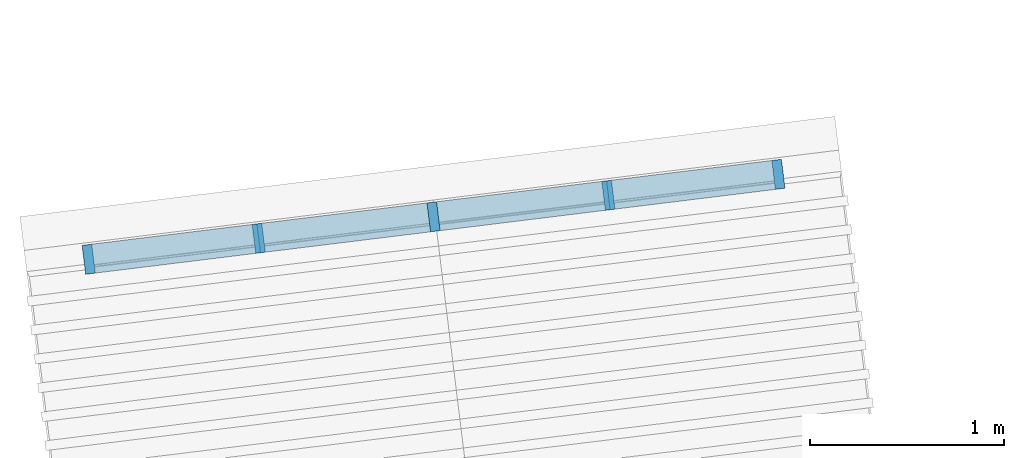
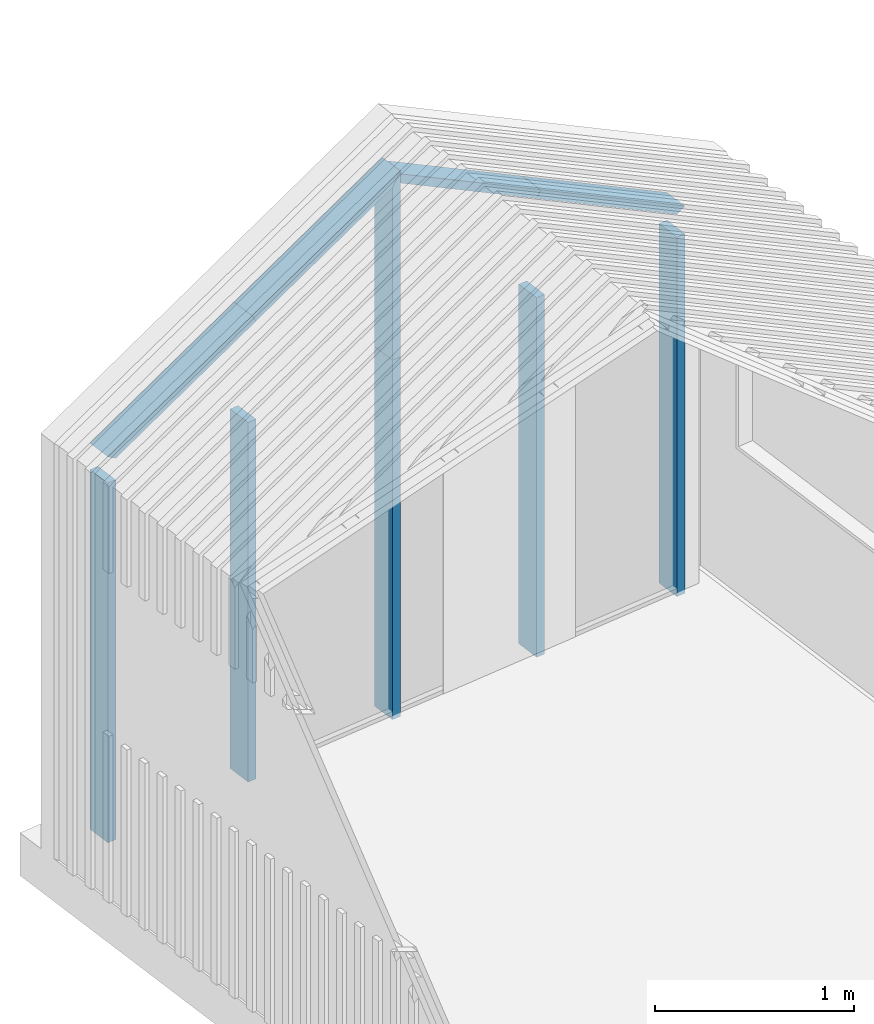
# One storey, part 3 of 75: 10 members, 1 element without a shape of its own.
"""IFC2X3 building model written with IfcOpenShell, lengths in metres."""

import ifcopenshell
import ifcopenshell.guid

model = None  # the IFC model being written
_history = None  # IfcOwnerHistory: only IFC2X3 demands one
_inside = {}  # id of a spatial element -> (the spatial element, [elements in it])
_under = {}  # id of a project, library or spatial element -> (it, [spatial elements below it])
_declared = {}  # id of a project -> (the project, [libraries it declares])
_typed = {}  # id of a type object -> (the type object, [elements of that type])
_made_of = {}  # id of a material, layer set ... -> (it, [elements and type objects made of it])


def new_model(schema):
    """Start an empty IFC model of exactly this schema.

    Asked for "IFC4X3", IfcOpenShell would pick the latest addendum, in which some entities
    have other attributes; the version numbers below select the first issue.
    IFC2X3 requires an IfcOwnerHistory on every rooted entity: one is made here for all.
    """
    global model, _history
    if schema == "IFC4X3":
        model = ifcopenshell.file(schema_version=(4, 3, 0, 0))
    else:
        model = ifcopenshell.file(schema=schema)
    _inside.clear()
    _under.clear()
    _declared.clear()
    _typed.clear()
    _made_of.clear()
    _history = None
    if model.schema == "IFC2X3":
        org = make("IfcOrganization", Name="unknown")
        user = make(
            "IfcPersonAndOrganization",
            ThePerson=make("IfcPerson", FamilyName="unknown"),
            TheOrganization=org,
        )
        app = make(
            "IfcApplication",
            ApplicationDeveloper=org,
            Version="unknown",
            ApplicationFullName="unknown",
            ApplicationIdentifier="unknown",
        )
        _history = make(
            "IfcOwnerHistory",
            OwningUser=user,
            OwningApplication=app,
            ChangeAction="ADDED",
            CreationDate=0,
        )
    return model


def make(cls, **values):
    """One entity of the class cls with the attributes given. An attribute that is None is left unset."""
    return model.create_entity(
        cls, **{name: value for name, value in values.items() if value is not None}
    )


def entity(cls, *values):
    """Any entity or typed value of the class cls, its attributes in the order of the schema. None: left unset."""
    e = model.create_entity(cls)
    for i, value in enumerate(values):
        if value is not None:
            e[i] = value
    return e


def rooted(cls, **values):
    """An entity with a GlobalId (a new one), such as an element, a storey or a relation."""
    return make(cls, GlobalId=ifcopenshell.guid.new(), OwnerHistory=_history, **values)


def si_unit(unit_type, name, prefix=None):
    """IfcSIUnit, for example si_unit("LENGTHUNIT", "METRE", prefix="MILLI")."""
    return make("IfcSIUnit", UnitType=unit_type, Prefix=prefix, Name=name)


def converted_unit(unit_type, name, factor, base, dimensions=None, offset=None):
    """IfcConversionBasedUnit, such as the inch: factor (a typed value) times the base unit."""
    return make(
        "IfcConversionBasedUnit"
        if offset is None
        else "IfcConversionBasedUnitWithOffset",
        ConversionOffset=offset,
        Dimensions=None
        if dimensions is None
        else entity("IfcDimensionalExponents", *dimensions),
        UnitType=unit_type,
        Name=name,
        ConversionFactor=make(
            "IfcMeasureWithUnit", ValueComponent=factor, UnitComponent=base
        ),
    )


def derived_unit(unit_type, elements):
    """IfcDerivedUnit: a product of units, each with its exponent."""
    return make(
        "IfcDerivedUnit",
        Elements=[
            make("IfcDerivedUnitElement", Unit=unit, Exponent=power)
            for unit, power in elements
        ],
        UnitType=unit_type,
    )


def assignment(units):
    """IfcUnitAssignment: the units of a project."""
    return None if units is None else make("IfcUnitAssignment", Units=units)


def point(xyz):
    """IfcCartesianPoint."""
    return None if xyz is None else make("IfcCartesianPoint", Coordinates=xyz)


def direction(xyz):
    """IfcDirection."""
    return None if xyz is None else make("IfcDirection", DirectionRatios=xyz)


def frame(location, z_axis=None, x_axis=None):
    """IfcAxis2Placement3D, a coordinate frame: its origin and axes. An axis left out is left unset."""
    return make(
        "IfcAxis2Placement3D",
        Location=point(location),
        Axis=direction(z_axis),
        RefDirection=direction(x_axis),
    )


def frame_2d(location, x_axis=None):
    """IfcAxis2Placement2D, a coordinate frame in the plane: its origin and x axis."""
    return make(
        "IfcAxis2Placement2D", Location=point(location), RefDirection=direction(x_axis)
    )


def origin():
    """The frame at (0, 0, 0) with its axes left unset."""
    return frame((0.0, 0.0, 0.0))


def origin_2d_with_axis():
    """The frame at (0, 0) in the plane with the x axis (1, 0) written out."""
    return frame_2d((0.0, 0.0), x_axis=(1.0, 0.0))


def place(relative_to, where):
    """IfcLocalPlacement: puts the frame where relative to a parent placement (None: the world)."""
    return make(
        "IfcLocalPlacement", PlacementRelTo=relative_to, RelativePlacement=where
    )


def context(
    kind, dimensions, precision=None, world=None, true_north=None, identifier=None
):
    """IfcGeometricRepresentationContext, for example the 3D "Model" context."""
    return make(
        "IfcGeometricRepresentationContext",
        ContextIdentifier=identifier,
        ContextType=kind,
        CoordinateSpaceDimension=dimensions,
        Precision=precision,
        WorldCoordinateSystem=world,
        TrueNorth=true_north,
    )


def subcontext(parent, identifier, kind, view, scale=None):
    """IfcGeometricRepresentationSubContext, for example "Body" below "Model"."""
    return make(
        "IfcGeometricRepresentationSubContext",
        ContextIdentifier=identifier,
        ContextType=kind,
        ParentContext=parent,
        TargetScale=scale,
        TargetView=view,
    )


def project(units=None, contexts=None):
    """IfcProject with its units and contexts."""
    return rooted(
        "IfcProject",
        Name="project",
        RepresentationContexts=contexts,
        UnitsInContext=assignment(units),
    )


def spatial(cls, under=None, at=None, **own):
    """A site, building, storey or space (cls), placed at a placement, below another one or the project."""
    s = rooted(cls, ObjectPlacement=at, **own)
    if under is not None:
        _under.setdefault(under.id(), (under, []))[1].append(s)
    return s


def profile(cls, at=None, kind="AREA", **sizes):
    """A parametric profile (cls). Its sizes go by their IFC names, for example OverallWidth=200.0."""
    return make(cls, ProfileType=kind, Position=at, **sizes)


def rectangle(**sizes):
    """IfcRectangleProfileDef."""
    return profile("IfcRectangleProfileDef", **sizes)


def extrude(swept, where, along, depth):
    """IfcExtrudedAreaSolid: the profile swept, set in the frame where, extruded along a direction by depth."""
    return make(
        "IfcExtrudedAreaSolid",
        SweptArea=swept,
        Position=where,
        ExtrudedDirection=direction(along),
        Depth=depth,
    )


def clip(a, b, op="DIFFERENCE"):
    """IfcBooleanClippingResult: the solid a cut by the half space b."""
    return make(
        "IfcBooleanClippingResult", Operator=op, FirstOperand=a, SecondOperand=b
    )


def halfspace(plane, agree):
    """IfcHalfSpaceSolid: all space on one side of the plane z = 0 of the frame plane."""
    return make(
        "IfcHalfSpaceSolid",
        BaseSurface=make("IfcPlane", Position=plane),
        AgreementFlag=agree,
    )


def shape(context_of_items, identifier, shape_type, items):
    """IfcShapeRepresentation: the items that make up one representation, for example the "Body"."""
    return make(
        "IfcShapeRepresentation",
        ContextOfItems=context_of_items,
        RepresentationIdentifier=identifier,
        RepresentationType=shape_type,
        Items=items,
    )


def source(mapping_origin, context_of_items, identifier, shape_type, items):
    """IfcRepresentationMap: a shape defined once, which mapped items show again and again."""
    return make(
        "IfcRepresentationMap",
        MappingOrigin=mapping_origin,
        MappedRepresentation=shape(context_of_items, identifier, shape_type, items),
    )


def transform(
    local_origin,
    x_axis=None,
    y_axis=None,
    z_axis=None,
    scale=None,
    scale2=None,
    scale3=None,
    uniform=True,
):
    """IfcCartesianTransformationOperator3D, or its non-uniform kind. x_axis, y_axis, z_axis: its Axis1, 2, 3."""
    if uniform:
        return make(
            "IfcCartesianTransformationOperator3D",
            Axis1=direction(x_axis),
            Axis2=direction(y_axis),
            LocalOrigin=point(local_origin),
            Scale=scale,
            Axis3=direction(z_axis),
        )
    return make(
        "IfcCartesianTransformationOperator3DnonUniform",
        Axis1=direction(x_axis),
        Axis2=direction(y_axis),
        LocalOrigin=point(local_origin),
        Scale=scale,
        Axis3=direction(z_axis),
        Scale2=scale2,
        Scale3=scale3,
    )


def mapped(mapping_source, mapping_target):
    """IfcMappedItem: shows the shape of a source again, moved by a transform."""
    return make(
        "IfcMappedItem", MappingSource=mapping_source, MappingTarget=mapping_target
    )


def material(Name=None, Category=None):
    """IfcMaterial."""
    return make("IfcMaterial", Name=Name, Category=Category)


def made_of(thing, what):
    """Note that an element or type object is made of a material, layer set ...; save() writes the relation."""
    if what is not None:
        _made_of.setdefault(what.id(), (what, []))[1].append(thing)
    return thing


def type_object(cls, material=None, **own):
    """A type object (cls), such as IfcWallType, which elements share."""
    return made_of(rooted(cls, **own), material)


def type_shapes(of_type, sources):
    """Give a type object the sources (RepresentationMaps) that its elements show as mapped items."""
    of_type.RepresentationMaps = sources


def element(
    cls,
    number,
    at=None,
    inside=None,
    cuts=None,
    type_object=None,
    material=None,
    context=None,
    identifier="Body",
    shape_type=None,
    held_by="IfcProductDefinitionShape",
    body=None,
    shapes=None,
    **own,
):
    """One element of the class cls, such as IfcWall. Its Tag is "e" and its number.

    at: its placement. inside: the storey or other place that contains it. cuts: it is an
    opening in that element (IfcRelVoidsElement). A single representation is given by context,
    identifier, shape_type and body (its items); several are given by shapes. held_by: the class
    of the entity that holds the representations. save() writes the other relations.
    """
    e = rooted(cls, Tag="e%d" % number, ObjectPlacement=at, **own)
    if body is not None:
        shapes = [shape(context, identifier, shape_type, body)]
    if shapes is not None:
        e.Representation = make(held_by, Representations=shapes)
    if inside is not None:
        _inside.setdefault(inside.id(), (inside, []))[1].append(e)
    if cuts is not None:
        rooted(
            "IfcRelVoidsElement", RelatingBuildingElement=cuts, RelatedOpeningElement=e
        )
    if type_object is not None:
        _typed.setdefault(type_object.id(), (type_object, []))[1].append(e)
    return made_of(e, material)


def aggregate(whole, parts):
    """IfcRelAggregates: a whole, such as a stair, and the parts it consists of."""
    return rooted("IfcRelAggregates", RelatingObject=whole, RelatedObjects=parts)


def save(model, path):
    """Write the relations noted so far, then the file.

    IfcRelAggregates (storeys below a building ...), IfcRelContainedInSpatialStructure (elements
    in a storey), IfcRelDefinesByType, IfcRelAssociatesMaterial and IfcRelDeclares: one each for
    every whole, place, type object, material and project.
    """
    for whole, parts in _under.values():
        aggregate(whole, parts)
    for where, things in _inside.values():
        rooted(
            "IfcRelContainedInSpatialStructure",
            RelatedElements=things,
            RelatingStructure=where,
        )
    for kind, things in _typed.values():
        rooted("IfcRelDefinesByType", RelatedObjects=things, RelatingType=kind)
    for what, things in _made_of.values():
        rooted("IfcRelAssociatesMaterial", RelatedObjects=things, RelatingMaterial=what)
    for by, libraries in _declared.values():
        rooted("IfcRelDeclares", RelatingContext=by, RelatedDefinitions=libraries)
    model.write(path)


model = new_model("IFC2X3")

# Units and contexts
model_context = context("Model", 3, precision=1e-05, world=origin(), true_north=direction((6.123031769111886e-17, 1.0)))
body_context = subcontext(model_context, "Body", "Model", "MODEL_VIEW")
ifc_project = project(units=[si_unit("LENGTHUNIT", "METRE"), si_unit("AREAUNIT", "SQUARE_METRE"), si_unit("VOLUMEUNIT", "CUBIC_METRE"), converted_unit("PLANEANGLEUNIT", "DEGREE", entity("IfcRatioMeasure", 0.017453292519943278), si_unit("PLANEANGLEUNIT", "RADIAN"), dimensions=[0, 0, 0, 0, 0, 0, 0]), si_unit("MASSUNIT", "GRAM", prefix="KILO"), derived_unit("MASSDENSITYUNIT", [(si_unit("MASSUNIT", "GRAM", prefix="KILO"), 1), (si_unit("LENGTHUNIT", "METRE"), -3)]), derived_unit("IONCONCENTRATIONUNIT", [(si_unit("MASSUNIT", "GRAM", prefix="KILO"), 1), (si_unit("LENGTHUNIT", "METRE"), -3)]), derived_unit("MOMENTOFINERTIAUNIT", [(si_unit("LENGTHUNIT", "METRE"), 4)]), si_unit("TIMEUNIT", "SECOND"), si_unit("FREQUENCYUNIT", "HERTZ"), si_unit("THERMODYNAMICTEMPERATUREUNIT", "DEGREE_CELSIUS"), derived_unit("THERMALTRANSMITTANCEUNIT", [(si_unit("MASSUNIT", "GRAM", prefix="KILO"), 1), (si_unit("THERMODYNAMICTEMPERATUREUNIT", "KELVIN"), -1), (si_unit("TIMEUNIT", "SECOND"), -3)]), derived_unit("THERMALCONDUCTANCEUNIT", [(si_unit("MASSUNIT", "GRAM", prefix="KILO"), 1), (si_unit("THERMODYNAMICTEMPERATUREUNIT", "KELVIN"), -1), (si_unit("TIMEUNIT", "SECOND"), -3), (si_unit("LENGTHUNIT", "METRE"), 1)]), derived_unit("VOLUMETRICFLOWRATEUNIT", [(si_unit("LENGTHUNIT", "METRE"), 3), (si_unit("TIMEUNIT", "SECOND"), -1)]), derived_unit("MASSFLOWRATEUNIT", [(si_unit("MASSUNIT", "GRAM", prefix="KILO"), 1), (si_unit("TIMEUNIT", "SECOND"), -1)]), derived_unit("ROTATIONALFREQUENCYUNIT", [(si_unit("TIMEUNIT", "SECOND"), -1)]), si_unit("ELECTRICCURRENTUNIT", "AMPERE"), si_unit("ELECTRICVOLTAGEUNIT", "VOLT"), si_unit("POWERUNIT", "WATT"), si_unit("FORCEUNIT", "NEWTON", prefix="KILO"), si_unit("ILLUMINANCEUNIT", "LUX"), si_unit("LUMINOUSFLUXUNIT", "LUMEN"), si_unit("LUMINOUSINTENSITYUNIT", "CANDELA"), derived_unit("USERDEFINED", [(si_unit("MASSUNIT", "GRAM", prefix="KILO"), -1), (si_unit("LENGTHUNIT", "METRE"), -2), (si_unit("TIMEUNIT", "SECOND"), 3), (si_unit("LUMINOUSFLUXUNIT", "LUMEN"), 1)]), derived_unit("USERDEFINED", [(si_unit("MASSUNIT", "GRAM", prefix="KILO"), 1), (si_unit("TIMEUNIT", "SECOND"), -3), (si_unit("LENGTHUNIT", "METRE"), 3), (si_unit("ELECTRICCURRENTUNIT", "AMPERE"), -2)]), derived_unit("SOUNDPOWERUNIT", [(si_unit("MASSUNIT", "GRAM", prefix="KILO"), 1), (si_unit("TIMEUNIT", "SECOND"), -3), (si_unit("LENGTHUNIT", "METRE"), 2)]), derived_unit("SOUNDPRESSUREUNIT", [(si_unit("MASSUNIT", "GRAM", prefix="KILO"), 1), (si_unit("LENGTHUNIT", "METRE"), -1), (si_unit("TIMEUNIT", "SECOND"), -2)]), derived_unit("LINEARVELOCITYUNIT", [(si_unit("LENGTHUNIT", "METRE"), 1), (si_unit("TIMEUNIT", "SECOND"), -1)]), si_unit("PRESSUREUNIT", "PASCAL"), derived_unit("USERDEFINED", [(si_unit("MASSUNIT", "GRAM", prefix="KILO"), 1), (si_unit("LENGTHUNIT", "METRE"), -2), (si_unit("TIMEUNIT", "SECOND"), -2)]), derived_unit("LINEARFORCEUNIT", [(si_unit("MASSUNIT", "GRAM", prefix="KILO"), 1), (si_unit("TIMEUNIT", "SECOND"), -2)]), derived_unit("PLANARFORCEUNIT", [(si_unit("MASSUNIT", "GRAM", prefix="KILO"), 1), (si_unit("LENGTHUNIT", "METRE"), -1), (si_unit("TIMEUNIT", "SECOND"), -2)]), derived_unit("SPECIFICHEATCAPACITYUNIT", [(si_unit("THERMODYNAMICTEMPERATUREUNIT", "KELVIN"), -1), (si_unit("LENGTHUNIT", "METRE"), 2), (si_unit("TIMEUNIT", "SECOND"), -2)]), derived_unit("HEATINGVALUEUNIT", [(si_unit("LENGTHUNIT", "METRE"), 2), (si_unit("TIMEUNIT", "SECOND"), -2)]), derived_unit("VAPORPERMEABILITYUNIT", [(si_unit("LENGTHUNIT", "METRE"), -1), (si_unit("TIMEUNIT", "SECOND"), 1)]), derived_unit("DYNAMICVISCOSITYUNIT", [(si_unit("MASSUNIT", "GRAM", prefix="KILO"), 1), (si_unit("TIMEUNIT", "SECOND"), -1), (si_unit("LENGTHUNIT", "METRE"), -1)]), derived_unit("THERMALEXPANSIONCOEFFICIENTUNIT", [(si_unit("THERMODYNAMICTEMPERATUREUNIT", "KELVIN"), -1)]), derived_unit("MODULUSOFELASTICITYUNIT", [(si_unit("MASSUNIT", "GRAM", prefix="KILO"), 1), (si_unit("LENGTHUNIT", "METRE"), -1), (si_unit("TIMEUNIT", "SECOND"), -2)]), derived_unit("ISOTHERMALMOISTURECAPACITYUNIT", [(si_unit("LENGTHUNIT", "METRE"), 3), (si_unit("MASSUNIT", "GRAM", prefix="KILO"), -1)]), derived_unit("MOISTUREDIFFUSIVITYUNIT", [(si_unit("TIMEUNIT", "SECOND"), -1), (si_unit("LENGTHUNIT", "METRE"), 2)])], contexts=[model_context])

# Site, building, storey
site_placement = place(None, origin())
site = spatial("IfcSite", under=ifc_project, at=site_placement, Name="Default", CompositionType="ELEMENT")
building_placement = place(site_placement, origin())
building = spatial("IfcBuilding", under=site, at=building_placement, Name="Projeto", CompositionType="ELEMENT")
storey_placement = place(building_placement, origin())
storey = spatial("IfcBuildingStorey", under=building, at=storey_placement, Name="Nível 1", CompositionType="ELEMENT", Elevation=0.0)

# Curtain wall, members
curtain_wall_type = type_object("IfcCurtainWallType", Name="Parede cortina:Vitrine", PredefinedType="NOTDEFINED")
curtain_wall_placement = place(storey_placement, origin())
curtain_wall = element("IfcCurtainWall", 1, at=curtain_wall_placement, inside=storey, type_object=curtain_wall_type, Name="Parede cortina:Vitrine", ObjectType="Parede cortina:Vitrine")
ifc_material = material(Name="Alumín.")
member_type_1 = type_object("IfcMemberType", Name="Montante retangular:50 x 150mm", PredefinedType="MULLION", material=ifc_material)
shared_shape_1 = source(origin(), body_context, "Body", "SweptSolid", [
    clip(extrude(rectangle(XDim=0.14999999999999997, YDim=0.05, at=origin_2d_with_axis()), frame((0.0, 0.0, -1.1418157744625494), z_axis=(0.0, 0.0, 1.0), x_axis=(0.0, -1.0, 0.0)), (0.0, 0.0, 1.0), 1.1418157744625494), halfspace(frame((0.0, 0.0, -1.1002087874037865), z_axis=(0.8571673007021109, 0.0, -0.5150380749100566), x_axis=(0.5150380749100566, 0.0, 0.8571673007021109)), False)),
])
type_shapes(member_type_1, [shared_shape_1])
member_1_placement = place(curtain_wall_placement, frame((-152.4061438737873, 78.05799485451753, -0.39703155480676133), z_axis=(0.0, 0.0, -1.0), x_axis=(-0.9925113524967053, -0.12215242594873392, 0.0)))
member_1 = element("IfcMember", 2, at=member_1_placement, type_object=member_type_1, material=ifc_material, Name="Montante retangular:50 x 150mm", ObjectType="Montante retangular:50 x 150mm", context=body_context, shape_type="MappedRepresentation", body=[
    mapped(shared_shape_1, transform((0.0, 0.0, 0.0), scale=1.0)),
])
member_type_2 = type_object("IfcMemberType", Name="Montante retangular:50 x 150mm", PredefinedType="MULLION", material=ifc_material)
shared_shape_2 = source(origin(), body_context, "Body", "SweptSolid", [
    clip(extrude(rectangle(XDim=0.14999999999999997, YDim=0.05, at=frame_2d((0.0, 5.898059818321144e-17), x_axis=(1.0, 0.0))), frame((-0.025, 0.0, -1.0292357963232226), z_axis=(0.0, 0.0, 1.0), x_axis=(0.0, -1.0, 0.0)), (0.0, 0.0, 1.0), 1.0292357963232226), halfspace(frame((0.0, -0.3048, 0.0), z_axis=(-0.5150380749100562, 0.0, 0.8571673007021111), x_axis=(-0.8571673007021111, 0.0, -0.5150380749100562)), False)),
])
type_shapes(member_type_2, [shared_shape_2])
member_2_placement = place(curtain_wall_placement, frame((-154.21005562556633, 77.83598006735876, -0.2349023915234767), z_axis=(-0.8763355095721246, -0.10785419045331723, -0.46947156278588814), x_axis=(-0.46595585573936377, -0.057347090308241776, 0.8829475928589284)))
member_2 = element("IfcMember", 3, at=member_2_placement, type_object=member_type_2, material=ifc_material, Name="Montante retangular:50 x 150mm", ObjectType="Montante retangular:50 x 150mm", context=body_context, shape_type="MappedRepresentation", body=[
    mapped(shared_shape_2, transform((0.0, 0.0, 0.0), scale=1.0)),
])
member_type_3 = type_object("IfcMemberType", Name="Montante retangular:50 x 150mm", PredefinedType="MULLION", material=ifc_material)
shared_shape_3 = source(origin(), body_context, "Body", "SweptSolid", [
    extrude(rectangle(XDim=0.15, YDim=0.05000000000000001, at=frame_2d((-6.938893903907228e-18, -5.898059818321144e-17), x_axis=(1.0, 0.0))), frame((-0.025, 0.0, -1.0210111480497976), z_axis=(0.0, 0.0, 1.0), x_axis=(0.0, -1.0, 0.0)), (0.0, 0.0, 1.0), 1.0210111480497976),
])
type_shapes(member_type_3, [shared_shape_3])
member_3_placement = place(curtain_wall_placement, frame((-152.39893632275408, 78.05888191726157, 0.7353527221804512), z_axis=(-0.8763355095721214, -0.10785419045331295, 0.46947156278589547), x_axis=(0.465955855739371, 0.057347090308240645, 0.8829475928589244)))
member_3 = element("IfcMember", 4, at=member_3_placement, type_object=member_type_3, material=ifc_material, Name="Montante retangular:50 x 150mm", ObjectType="Montante retangular:50 x 150mm", context=body_context, shape_type="MappedRepresentation", body=[
    mapped(shared_shape_3, transform((0.0, 0.0, 0.0), scale=1.0)),
])
member_type_4 = type_object("IfcMemberType", Name="Montante retangular:50 x 150mm", PredefinedType="MULLION", material=ifc_material)
shared_shape_4 = source(origin(), body_context, "Body", "SweptSolid", [
    clip(extrude(rectangle(XDim=0.15, YDim=0.05, at=frame_2d((2.0816681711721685e-17, 5.898059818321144e-17), x_axis=(1.0, 0.0))), frame((-0.025, 0.0, -1.0575500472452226), z_axis=(0.0, 0.0, 1.0), x_axis=(0.0, -1.0, 0.0)), (0.0, 0.0, 1.0), 1.0575500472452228), halfspace(frame((-0.024999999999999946, 0.0, -1.0159430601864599), z_axis=(-0.8571673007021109, 0.0, -0.5150380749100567), x_axis=(-0.5150380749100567, 0.0, 0.8571673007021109)), False)),
])
type_shapes(member_type_4, [shared_shape_4])
member_4_placement = place(curtain_wall_placement, frame((-153.30809974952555, 77.94698746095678, 0.2482945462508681), z_axis=(-0.8763355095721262, -0.10785419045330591, -0.4694715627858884), x_axis=(-0.465955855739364, -0.057347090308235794, 0.8829475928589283)))
member_4 = element("IfcMember", 5, at=member_4_placement, type_object=member_type_4, material=ifc_material, Name="Montante retangular:50 x 150mm", ObjectType="Montante retangular:50 x 150mm", context=body_context, shape_type="MappedRepresentation", body=[
    mapped(shared_shape_4, transform((0.0, 0.0, 0.0), scale=1.0)),
])
member_type_5 = type_object("IfcMemberType", Name="Montante retangular:50 x 150mm", PredefinedType="MULLION", material=ifc_material)
shared_shape_5 = source(origin(), body_context, "Body", "SweptSolid", [
    clip(extrude(rectangle(XDim=0.14999999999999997, YDim=0.05, at=frame_2d((1.3877787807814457e-17, 5.898059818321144e-17), x_axis=(1.0, 0.0))), frame((-0.025, 0.0, -1.0292357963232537), z_axis=(0.0, 0.0, 1.0), x_axis=(0.0, -1.0, 0.0)), (0.0, 0.0, 1.0), 1.029235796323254), halfspace(frame((0.0, -0.3048, -1.0292357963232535), z_axis=(-0.5150380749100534, 0.0, -0.8571673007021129), x_axis=(-0.8571673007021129, 0.0, 0.5150380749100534)), False)),
])
type_shapes(member_type_5, [shared_shape_5])
member_5_placement = place(curtain_wall_placement, frame((-151.50418799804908, 78.16900224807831, 0.2560170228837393), z_axis=(-0.8763355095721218, -0.10785419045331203, 0.4694715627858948), x_axis=(0.4659558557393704, 0.05734709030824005, 0.8829475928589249)))
member_5 = element("IfcMember", 6, at=member_5_placement, type_object=member_type_5, material=ifc_material, Name="Montante retangular:50 x 150mm", ObjectType="Montante retangular:50 x 150mm", context=body_context, shape_type="MappedRepresentation", body=[
    mapped(shared_shape_5, transform((0.0, 0.0, 0.0), scale=1.0)),
])
member_type_6 = type_object("IfcMemberType", Name="Montante retangular:50 x 150mm", PredefinedType="MULLION", material=ifc_material)
shared_shape_6 = source(origin(), body_context, "Body", "SweptSolid", [
    extrude(rectangle(XDim=0.14999999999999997, YDim=0.05, at=origin_2d_with_axis()), frame((0.0, 0.0, -2.20796844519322), z_axis=(0.0, 0.0, 1.0), x_axis=(0.0, -1.0, 0.0)), (0.0, 0.0, 1.0), 2.20796844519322),
])
type_shapes(member_type_6, [shared_shape_6])
member_6_placement = place(curtain_wall_placement, frame((-151.50418799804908, 78.16900224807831, -2.6049999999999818), z_axis=(0.0, 0.0, -1.0), x_axis=(-0.9925113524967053, -0.12215242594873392, 0.0)))
member_6 = element("IfcMember", 7, at=member_6_placement, type_object=member_type_6, material=ifc_material, Name="Montante retangular:50 x 150mm", ObjectType="Montante retangular:50 x 150mm", context=body_context, shape_type="MappedRepresentation", body=[
    mapped(shared_shape_6, transform((0.0, 0.0, 0.0), scale=1.0)),
])
member_7_placement = place(curtain_wall_placement, frame((-152.4061438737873, 78.05799485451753, -2.6049999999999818), z_axis=(0.0, 0.0, -1.0), x_axis=(-0.9925113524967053, -0.12215242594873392, 0.0)))
member_7 = element("IfcMember", 8, at=member_7_placement, type_object=member_type_6, material=ifc_material, Name="Montante retangular:50 x 150mm", ObjectType="Montante retangular:50 x 150mm", context=body_context, shape_type="MappedRepresentation", body=[
    mapped(shared_shape_6, transform((0.0, 0.0, 0.0), scale=1.0)),
])
member_8_placement = place(curtain_wall_placement, frame((-153.30809974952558, 77.94698746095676, -2.6049999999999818), z_axis=(0.0, 0.0, -1.0), x_axis=(-0.9925113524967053, -0.12215242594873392, 0.0)))
member_8 = element("IfcMember", 9, at=member_8_placement, type_object=member_type_6, material=ifc_material, Name="Montante retangular:50 x 150mm", ObjectType="Montante retangular:50 x 150mm", context=body_context, shape_type="MappedRepresentation", body=[
    mapped(shared_shape_6, transform((0.0, 0.0, 0.0), scale=1.0)),
])
member_type_7 = type_object("IfcMemberType", Name="Montante retangular:50 x 150mm", PredefinedType="MULLION", material=ifc_material)
shared_shape_7 = source(origin(), body_context, "Body", "SweptSolid", [
    extrude(rectangle(XDim=0.14999999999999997, YDim=0.05, at=origin_2d_with_axis()), frame((-0.025, 0.0, -2.20796844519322), z_axis=(0.0, 0.0, 1.0), x_axis=(0.0, -1.0, 0.0)), (0.0, 0.0, 1.0), 2.20796844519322),
])
type_shapes(member_type_7, [shared_shape_7])
member_9_placement = place(curtain_wall_placement, frame((-154.21005562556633, 77.83598006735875, -2.6049999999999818), z_axis=(0.0, 0.0, -1.0), x_axis=(-0.9925113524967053, -0.12215242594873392, 0.0)))
member_9 = element("IfcMember", 10, at=member_9_placement, type_object=member_type_7, material=ifc_material, Name="Montante retangular:50 x 150mm", ObjectType="Montante retangular:50 x 150mm", context=body_context, shape_type="MappedRepresentation", body=[
    mapped(shared_shape_7, transform((0.0, 0.0, 0.0), scale=1.0)),
])
member_type_8 = type_object("IfcMemberType", Name="Montante retangular:50 x 150mm", PredefinedType="MULLION", material=ifc_material)
shared_shape_8 = source(origin(), body_context, "Body", "SweptSolid", [
    extrude(rectangle(XDim=0.14999999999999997, YDim=0.05, at=origin_2d_with_axis()), frame((-0.025, 0.0, -2.207968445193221), z_axis=(0.0, 0.0, 1.0), x_axis=(0.0, -1.0, 0.0)), (0.0, 0.0, 1.0), 2.207968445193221),
])
type_shapes(member_type_8, [shared_shape_8])
member_10_placement = place(curtain_wall_placement, frame((-150.60223212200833, 78.28000964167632, -0.39703155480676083), z_axis=(0.0, 0.0, 1.0), x_axis=(0.9925113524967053, 0.12215242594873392, 0.0)))
member_10 = element("IfcMember", 11, at=member_10_placement, type_object=member_type_8, material=ifc_material, Name="Montante retangular:50 x 150mm", ObjectType="Montante retangular:50 x 150mm", context=body_context, shape_type="MappedRepresentation", body=[
    mapped(shared_shape_8, transform((0.0, 0.0, 0.0), scale=1.0)),
])
aggregate(curtain_wall, [member_6, member_7, member_1, member_8, member_2, member_3, member_5, member_4, member_9, member_10])

save(model, "model.ifc")
